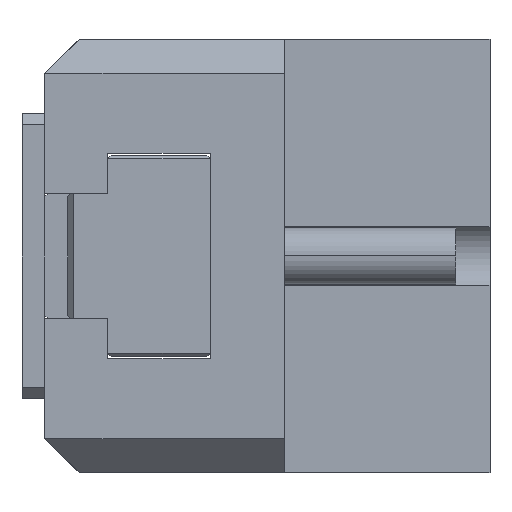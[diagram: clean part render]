
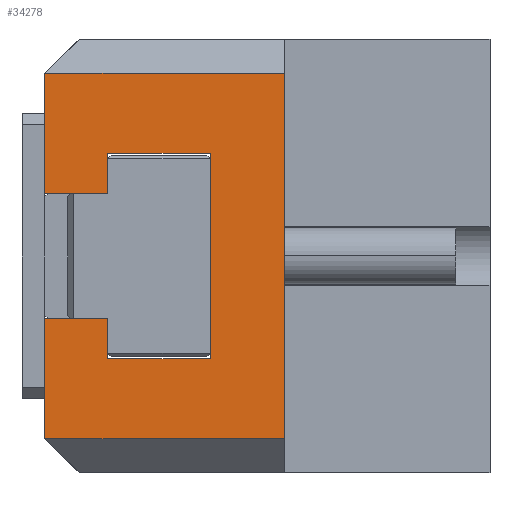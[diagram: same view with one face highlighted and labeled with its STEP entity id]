
A CAD part, left-side view. The second image highlights one B-rep face of the part: STEP entity #34278.
In plain terms, the highlighted planar face has unit normal (-1, 0, 0).
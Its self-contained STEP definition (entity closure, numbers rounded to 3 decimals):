
#115 = VECTOR ( 'NONE', #12653, 1000. ) ;
#681 = VECTOR ( 'NONE', #7301, 1000. ) ;
#988 = DIRECTION ( 'NONE',  ( 0., 0., 1. ) ) ;
#1284 = DIRECTION ( 'NONE',  ( 0., 0., -1. ) ) ;
#2023 = VERTEX_POINT ( 'NONE', #4251 ) ;
#2045 = CARTESIAN_POINT ( 'NONE',  ( -32., 39., 5.5 ) ) ;
#2336 = VERTEX_POINT ( 'NONE', #33748 ) ;
#2765 = LINE ( 'NONE', #25926, #19706 ) ;
#2845 = EDGE_CURVE ( 'NONE', #40116, #2336, #2765, .T. ) ;
#3335 = CARTESIAN_POINT ( 'NONE',  ( -32., 39., 16. ) ) ;
#4251 = CARTESIAN_POINT ( 'NONE',  ( -32., 33.5, 5.5 ) ) ;
#5579 = CARTESIAN_POINT ( 'NONE',  ( -32., 18., -16. ) ) ;
#5782 = CARTESIAN_POINT ( 'NONE',  ( -32., 39., 19. ) ) ;
#5970 = DIRECTION ( 'NONE',  ( 0., 1., 0. ) ) ;
#6251 = LINE ( 'NONE', #30340, #16557 ) ;
#6993 = EDGE_CURVE ( 'NONE', #43471, #25051, #29796, .T. ) ;
#7301 = DIRECTION ( 'NONE',  ( 0., 0., -1. ) ) ;
#7903 = CARTESIAN_POINT ( 'NONE',  ( -32., 24.5, 19. ) ) ;
#8876 = ORIENTED_EDGE ( 'NONE', *, *, #13967, .F. ) ;
#9195 = VECTOR ( 'NONE', #1284, 1000. ) ;
#9328 = ORIENTED_EDGE ( 'NONE', *, *, #40511, .F. ) ;
#9742 = VECTOR ( 'NONE', #42093, 1000. ) ;
#9856 = CARTESIAN_POINT ( 'NONE',  ( -32., 39., 9. ) ) ;
#10767 = VERTEX_POINT ( 'NONE', #2045 ) ;
#10785 = DIRECTION ( 'NONE',  ( 0., -1., 0. ) ) ;
#10815 = VERTEX_POINT ( 'NONE', #37016 ) ;
#11455 = ORIENTED_EDGE ( 'NONE', *, *, #40512, .F. ) ;
#12653 = DIRECTION ( 'NONE',  ( 0., -1., 0. ) ) ;
#13604 = DIRECTION ( 'NONE',  ( 1., 0., 0. ) ) ;
#13967 = EDGE_CURVE ( 'NONE', #10767, #43471, #47252, .T. ) ;
#15446 = LINE ( 'NONE', #9856, #34755 ) ;
#15507 = CARTESIAN_POINT ( 'NONE',  ( -32., 39., 19. ) ) ;
#16014 = ORIENTED_EDGE ( 'NONE', *, *, #37270, .T. ) ;
#16557 = VECTOR ( 'NONE', #30510, 1000. ) ;
#17381 = ORIENTED_EDGE ( 'NONE', *, *, #43985, .F. ) ;
#18132 = VECTOR ( 'NONE', #46406, 1000. ) ;
#18775 = CARTESIAN_POINT ( 'NONE',  ( -32., 39., 16. ) ) ;
#19088 = FACE_OUTER_BOUND ( 'NONE', #31783, .T. ) ;
#19289 = LINE ( 'NONE', #31765, #37406 ) ;
#19484 = LINE ( 'NONE', #35764, #115 ) ;
#19706 = VECTOR ( 'NONE', #49193, 1000. ) ;
#20543 = LINE ( 'NONE', #15507, #18132 ) ;
#20546 = CARTESIAN_POINT ( 'NONE',  ( -32., 33.5, 19. ) ) ;
#21408 = ORIENTED_EDGE ( 'NONE', *, *, #46913, .T. ) ;
#21464 = CARTESIAN_POINT ( 'NONE',  ( -32., 39., 19. ) ) ;
#24385 = ORIENTED_EDGE ( 'NONE', *, *, #6993, .F. ) ;
#24694 = ORIENTED_EDGE ( 'NONE', *, *, #2845, .F. ) ;
#24840 = LINE ( 'NONE', #7903, #26036 ) ;
#25051 = VERTEX_POINT ( 'NONE', #46303 ) ;
#25361 = DIRECTION ( 'NONE',  ( 0., 0., 1. ) ) ;
#25926 = CARTESIAN_POINT ( 'NONE',  ( -32., 39., -9. ) ) ;
#26036 = VECTOR ( 'NONE', #42356, 1000. ) ;
#28611 = VECTOR ( 'NONE', #10785, 1000. ) ;
#29596 = ORIENTED_EDGE ( 'NONE', *, *, #44027, .F. ) ;
#29796 = LINE ( 'NONE', #3335, #28611 ) ;
#30259 = VERTEX_POINT ( 'NONE', #38373 ) ;
#30334 = LINE ( 'NONE', #38184, #9742 ) ;
#30340 = CARTESIAN_POINT ( 'NONE',  ( -32., 39., -16. ) ) ;
#30407 = ORIENTED_EDGE ( 'NONE', *, *, #46231, .F. ) ;
#30510 = DIRECTION ( 'NONE',  ( 0., -1., 0. ) ) ;
#31007 = LINE ( 'NONE', #20546, #9195 ) ;
#31388 = VERTEX_POINT ( 'NONE', #45004 ) ;
#31550 = LINE ( 'NONE', #34325, #681 ) ;
#31765 = CARTESIAN_POINT ( 'NONE',  ( -32., 18., 19. ) ) ;
#31783 = EDGE_LOOP ( 'NONE', ( #11455, #29596, #50044, #30407, #24694, #9328, #17381, #21408, #16014, #44206, #24385, #8876 ) ) ;
#33748 = CARTESIAN_POINT ( 'NONE',  ( -32., 24.5, -9. ) ) ;
#34278 = ADVANCED_FACE ( 'NONE', ( #19088 ), #36711, .F. ) ;
#34325 = CARTESIAN_POINT ( 'NONE',  ( -32., 33.5, 19. ) ) ;
#34551 = VERTEX_POINT ( 'NONE', #47173 ) ;
#34755 = VECTOR ( 'NONE', #5970, 1000. ) ;
#35061 = CARTESIAN_POINT ( 'NONE',  ( -32., 33.5, -9. ) ) ;
#35415 = EDGE_CURVE ( 'NONE', #43313, #31388, #15446, .T. ) ;
#35764 = CARTESIAN_POINT ( 'NONE',  ( -32., 39., -5.5 ) ) ;
#35951 = AXIS2_PLACEMENT_3D ( 'NONE', #5782, #13604, #40595 ) ;
#36711 = PLANE ( 'NONE',  #35951 ) ;
#36941 = VECTOR ( 'NONE', #25361, 1000. ) ;
#37016 = CARTESIAN_POINT ( 'NONE',  ( -32., 39., -16. ) ) ;
#37270 = EDGE_CURVE ( 'NONE', #10815, #48556, #6251, .T. ) ;
#37406 = VECTOR ( 'NONE', #988, 1000. ) ;
#38184 = CARTESIAN_POINT ( 'NONE',  ( -32., 39., 5.5 ) ) ;
#38373 = CARTESIAN_POINT ( 'NONE',  ( -32., 39., -5.5 ) ) ;
#40116 = VERTEX_POINT ( 'NONE', #35061 ) ;
#40511 = EDGE_CURVE ( 'NONE', #34551, #40116, #31550, .T. ) ;
#40512 = EDGE_CURVE ( 'NONE', #2023, #10767, #30334, .T. ) ;
#40595 = DIRECTION ( 'NONE',  ( 0., 1., 0. ) ) ;
#40904 = CARTESIAN_POINT ( 'NONE',  ( -32., 24.5, 9. ) ) ;
#42093 = DIRECTION ( 'NONE',  ( 0., 1., 0. ) ) ;
#42356 = DIRECTION ( 'NONE',  ( 0., 0., 1. ) ) ;
#43313 = VERTEX_POINT ( 'NONE', #40904 ) ;
#43471 = VERTEX_POINT ( 'NONE', #18775 ) ;
#43985 = EDGE_CURVE ( 'NONE', #30259, #34551, #19484, .T. ) ;
#44027 = EDGE_CURVE ( 'NONE', #31388, #2023, #31007, .T. ) ;
#44206 = ORIENTED_EDGE ( 'NONE', *, *, #47900, .T. ) ;
#45004 = CARTESIAN_POINT ( 'NONE',  ( -32., 33.5, 9. ) ) ;
#46231 = EDGE_CURVE ( 'NONE', #2336, #43313, #24840, .T. ) ;
#46303 = CARTESIAN_POINT ( 'NONE',  ( -32., 18., 16. ) ) ;
#46406 = DIRECTION ( 'NONE',  ( 0., 0., -1. ) ) ;
#46913 = EDGE_CURVE ( 'NONE', #30259, #10815, #20543, .T. ) ;
#47173 = CARTESIAN_POINT ( 'NONE',  ( -32., 33.5, -5.5 ) ) ;
#47252 = LINE ( 'NONE', #21464, #36941 ) ;
#47900 = EDGE_CURVE ( 'NONE', #48556, #25051, #19289, .T. ) ;
#48556 = VERTEX_POINT ( 'NONE', #5579 ) ;
#49193 = DIRECTION ( 'NONE',  ( 0., -1., 0. ) ) ;
#50044 = ORIENTED_EDGE ( 'NONE', *, *, #35415, .F. ) ;
